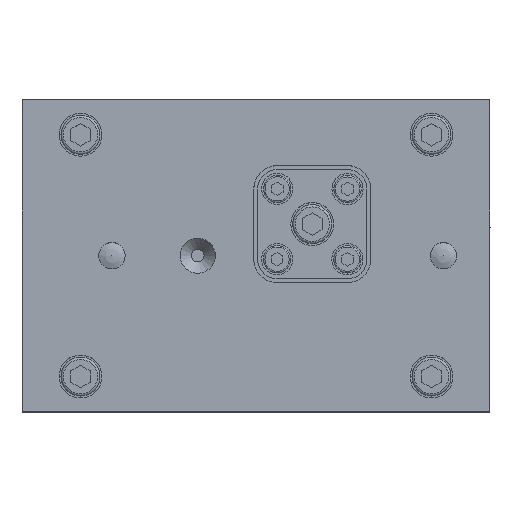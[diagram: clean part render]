
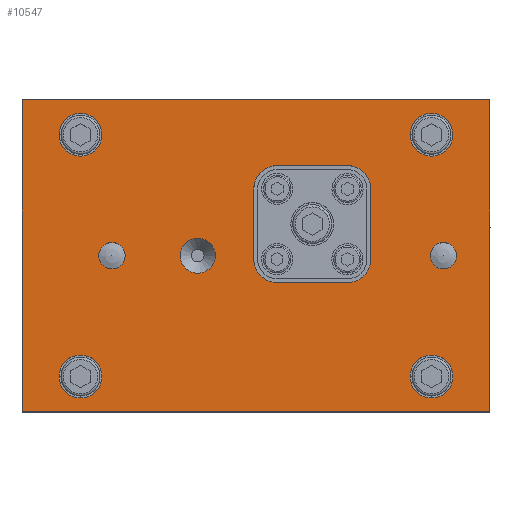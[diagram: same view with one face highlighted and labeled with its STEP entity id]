
A CAD part, top view. The second image highlights one B-rep face of the part: STEP entity #10547.
In plain terms, the highlighted planar face has unit normal (0, 0, 1).
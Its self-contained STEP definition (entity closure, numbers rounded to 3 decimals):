
#1251=LINE('',#21664,#1906);
#1252=LINE('',#21666,#1907);
#1253=LINE('',#21668,#1908);
#1254=LINE('',#21669,#1909);
#1255=LINE('',#21672,#1910);
#1256=LINE('',#21676,#1911);
#1257=LINE('',#21680,#1912);
#1258=LINE('',#21684,#1913);
#1906=VECTOR('',#14219,10.);
#1907=VECTOR('',#14220,10.);
#1908=VECTOR('',#14221,10.);
#1909=VECTOR('',#14222,10.);
#1910=VECTOR('',#14223,10.);
#1911=VECTOR('',#14226,10.);
#1912=VECTOR('',#14229,10.);
#1913=VECTOR('',#14232,10.);
#2460=FACE_BOUND('',#3708,.T.);
#2461=FACE_BOUND('',#3709,.T.);
#2462=FACE_BOUND('',#3710,.T.);
#2463=FACE_BOUND('',#3711,.T.);
#2464=FACE_BOUND('',#3712,.T.);
#2465=FACE_BOUND('',#3713,.T.);
#2466=FACE_BOUND('',#3714,.T.);
#2467=FACE_BOUND('',#3715,.T.);
#2934=FACE_OUTER_BOUND('',#3707,.T.);
#3707=EDGE_LOOP('',(#8878,#8879,#8880,#8881));
#3708=EDGE_LOOP('',(#8882));
#3709=EDGE_LOOP('',(#8883));
#3710=EDGE_LOOP('',(#8884));
#3711=EDGE_LOOP('',(#8885));
#3712=EDGE_LOOP('',(#8886));
#3713=EDGE_LOOP('',(#8887));
#3714=EDGE_LOOP('',(#8888,#8889,#8890,#8891,#8892,#8893,#8894,#8895));
#3715=EDGE_LOOP('',(#8896));
#4306=CIRCLE('',#11770,3.375);
#4307=CIRCLE('',#11772,3.375);
#4310=CIRCLE('',#11777,5.5);
#4314=CIRCLE('',#11784,5.5);
#4318=CIRCLE('',#11791,5.5);
#4321=CIRCLE('',#11798,5.5);
#4322=CIRCLE('',#11802,4.5);
#4325=CIRCLE('',#11807,6.);
#4326=CIRCLE('',#11808,6.);
#4327=CIRCLE('',#11809,6.);
#4328=CIRCLE('',#11810,6.);
#5104=VERTEX_POINT('',#21592);
#5105=VERTEX_POINT('',#21596);
#5108=VERTEX_POINT('',#21605);
#5112=VERTEX_POINT('',#21618);
#5116=VERTEX_POINT('',#21631);
#5120=VERTEX_POINT('',#21644);
#5122=VERTEX_POINT('',#21652);
#5125=VERTEX_POINT('',#21662);
#5126=VERTEX_POINT('',#21663);
#5127=VERTEX_POINT('',#21665);
#5128=VERTEX_POINT('',#21667);
#5129=VERTEX_POINT('',#21670);
#5130=VERTEX_POINT('',#21671);
#5131=VERTEX_POINT('',#21673);
#5132=VERTEX_POINT('',#21675);
#5133=VERTEX_POINT('',#21677);
#5134=VERTEX_POINT('',#21679);
#5135=VERTEX_POINT('',#21681);
#5136=VERTEX_POINT('',#21683);
#6401=EDGE_CURVE('',#5104,#5104,#4306,.T.);
#6403=EDGE_CURVE('',#5105,#5105,#4307,.T.);
#6406=EDGE_CURVE('',#5108,#5108,#4310,.T.);
#6412=EDGE_CURVE('',#5112,#5112,#4314,.T.);
#6418=EDGE_CURVE('',#5116,#5116,#4318,.T.);
#6424=EDGE_CURVE('',#5120,#5120,#4321,.T.);
#6428=EDGE_CURVE('',#5122,#5122,#4322,.T.);
#6433=EDGE_CURVE('',#5125,#5126,#1251,.T.);
#6434=EDGE_CURVE('',#5127,#5125,#1252,.T.);
#6435=EDGE_CURVE('',#5128,#5127,#1253,.T.);
#6436=EDGE_CURVE('',#5126,#5128,#1254,.T.);
#6437=EDGE_CURVE('',#5129,#5130,#1255,.T.);
#6438=EDGE_CURVE('',#5131,#5130,#4325,.T.);
#6439=EDGE_CURVE('',#5131,#5132,#1256,.T.);
#6440=EDGE_CURVE('',#5133,#5132,#4326,.T.);
#6441=EDGE_CURVE('',#5133,#5134,#1257,.T.);
#6442=EDGE_CURVE('',#5135,#5134,#4327,.T.);
#6443=EDGE_CURVE('',#5135,#5136,#1258,.T.);
#6444=EDGE_CURVE('',#5129,#5136,#4328,.T.);
#8878=ORIENTED_EDGE('',*,*,#6433,.F.);
#8879=ORIENTED_EDGE('',*,*,#6434,.F.);
#8880=ORIENTED_EDGE('',*,*,#6435,.F.);
#8881=ORIENTED_EDGE('',*,*,#6436,.F.);
#8882=ORIENTED_EDGE('',*,*,#6401,.T.);
#8883=ORIENTED_EDGE('',*,*,#6403,.T.);
#8884=ORIENTED_EDGE('',*,*,#6406,.T.);
#8885=ORIENTED_EDGE('',*,*,#6412,.T.);
#8886=ORIENTED_EDGE('',*,*,#6418,.T.);
#8887=ORIENTED_EDGE('',*,*,#6424,.T.);
#8888=ORIENTED_EDGE('',*,*,#6437,.T.);
#8889=ORIENTED_EDGE('',*,*,#6438,.F.);
#8890=ORIENTED_EDGE('',*,*,#6439,.T.);
#8891=ORIENTED_EDGE('',*,*,#6440,.F.);
#8892=ORIENTED_EDGE('',*,*,#6441,.T.);
#8893=ORIENTED_EDGE('',*,*,#6442,.F.);
#8894=ORIENTED_EDGE('',*,*,#6443,.T.);
#8895=ORIENTED_EDGE('',*,*,#6444,.F.);
#8896=ORIENTED_EDGE('',*,*,#6428,.F.);
#10046=PLANE('',#11806);
#10547=ADVANCED_FACE('',(#2934,#2460,#2461,#2462,#2463,#2464,#2465,#2466,
#2467),#10046,.T.);
#11770=AXIS2_PLACEMENT_3D('',#21594,#14134,#14135);
#11772=AXIS2_PLACEMENT_3D('',#21598,#14139,#14140);
#11777=AXIS2_PLACEMENT_3D('',#21606,#14149,#14150);
#11784=AXIS2_PLACEMENT_3D('',#21619,#14165,#14166);
#11791=AXIS2_PLACEMENT_3D('',#21632,#14181,#14182);
#11798=AXIS2_PLACEMENT_3D('',#21645,#14197,#14198);
#11802=AXIS2_PLACEMENT_3D('',#21653,#14207,#14208);
#11806=AXIS2_PLACEMENT_3D('',#21661,#14217,#14218);
#11807=AXIS2_PLACEMENT_3D('',#21674,#14224,#14225);
#11808=AXIS2_PLACEMENT_3D('',#21678,#14227,#14228);
#11809=AXIS2_PLACEMENT_3D('',#21682,#14230,#14231);
#11810=AXIS2_PLACEMENT_3D('',#21685,#14233,#14234);
#14134=DIRECTION('center_axis',(0.,0.,-1.));
#14135=DIRECTION('ref_axis',(1.,0.,0.));
#14139=DIRECTION('center_axis',(0.,0.,-1.));
#14140=DIRECTION('ref_axis',(1.,0.,0.));
#14149=DIRECTION('center_axis',(0.,0.,-1.));
#14150=DIRECTION('ref_axis',(1.,0.,0.));
#14165=DIRECTION('center_axis',(0.,0.,-1.));
#14166=DIRECTION('ref_axis',(1.,0.,0.));
#14181=DIRECTION('center_axis',(0.,0.,-1.));
#14182=DIRECTION('ref_axis',(1.,0.,0.));
#14197=DIRECTION('center_axis',(0.,0.,-1.));
#14198=DIRECTION('ref_axis',(1.,0.,0.));
#14207=DIRECTION('center_axis',(0.,0.,1.));
#14208=DIRECTION('ref_axis',(1.,0.,0.));
#14217=DIRECTION('center_axis',(0.,0.,1.));
#14218=DIRECTION('ref_axis',(1.,0.,0.));
#14219=DIRECTION('',(-1.,0.,0.));
#14220=DIRECTION('',(0.,-1.,0.));
#14221=DIRECTION('',(1.,0.,0.));
#14222=DIRECTION('',(0.,1.,0.));
#14223=DIRECTION('',(-1.,0.,0.));
#14224=DIRECTION('center_axis',(0.,0.,1.));
#14225=DIRECTION('ref_axis',(-0.707,-0.707,0.));
#14226=DIRECTION('',(0.,1.,0.));
#14227=DIRECTION('center_axis',(0.,0.,1.));
#14228=DIRECTION('ref_axis',(-0.707,0.707,0.));
#14229=DIRECTION('',(1.,0.,0.));
#14230=DIRECTION('center_axis',(0.,0.,1.));
#14231=DIRECTION('ref_axis',(0.707,0.707,0.));
#14232=DIRECTION('',(0.,-1.,0.));
#14233=DIRECTION('center_axis',(0.,0.,1.));
#14234=DIRECTION('ref_axis',(0.707,-0.707,0.));
#21592=CARTESIAN_POINT('',(-13.375,0.,30.));
#21594=CARTESIAN_POINT('Origin',(-10.,0.,30.));
#21596=CARTESIAN_POINT('',(71.625,0.,30.));
#21598=CARTESIAN_POINT('Origin',(75.,0.,30.));
#21605=CARTESIAN_POINT('',(-23.564,-31.,30.));
#21606=CARTESIAN_POINT('Origin',(-18.064,-31.,30.));
#21618=CARTESIAN_POINT('',(-23.564,31.,30.));
#21619=CARTESIAN_POINT('Origin',(-18.064,31.,30.));
#21631=CARTESIAN_POINT('',(66.436,-31.,30.));
#21632=CARTESIAN_POINT('Origin',(71.936,-31.,30.));
#21644=CARTESIAN_POINT('',(66.436,31.,30.));
#21645=CARTESIAN_POINT('Origin',(71.936,31.,30.));
#21652=CARTESIAN_POINT('',(7.5,0.,30.));
#21653=CARTESIAN_POINT('Origin',(12.,0.,30.));
#21661=CARTESIAN_POINT('Origin',(26.936,0.,30.));
#21662=CARTESIAN_POINT('',(86.936,-40.,30.));
#21663=CARTESIAN_POINT('',(-33.064,-40.,30.));
#21664=CARTESIAN_POINT('',(86.936,-40.,30.));
#21665=CARTESIAN_POINT('',(86.936,40.,30.));
#21666=CARTESIAN_POINT('',(86.936,40.,30.));
#21667=CARTESIAN_POINT('',(-33.064,40.,30.));
#21668=CARTESIAN_POINT('',(-33.064,40.,30.));
#21669=CARTESIAN_POINT('',(-33.064,-40.,30.));
#21670=CARTESIAN_POINT('',(50.371,-6.914,30.));
#21671=CARTESIAN_POINT('',(32.371,-6.914,30.));
#21672=CARTESIAN_POINT('',(41.654,-6.914,30.));
#21673=CARTESIAN_POINT('',(26.371,-0.914,30.));
#21674=CARTESIAN_POINT('Origin',(32.371,-0.914,30.));
#21675=CARTESIAN_POINT('',(26.371,17.086,30.));
#21676=CARTESIAN_POINT('',(26.371,-3.457,30.));
#21677=CARTESIAN_POINT('',(32.371,23.086,30.));
#21678=CARTESIAN_POINT('Origin',(32.371,17.086,30.));
#21679=CARTESIAN_POINT('',(50.371,23.086,30.));
#21680=CARTESIAN_POINT('',(26.654,23.086,30.));
#21681=CARTESIAN_POINT('',(56.371,17.086,30.));
#21682=CARTESIAN_POINT('Origin',(50.371,17.086,30.));
#21683=CARTESIAN_POINT('',(56.371,-0.914,30.));
#21684=CARTESIAN_POINT('',(56.371,11.543,30.));
#21685=CARTESIAN_POINT('Origin',(50.371,-0.914,30.));
